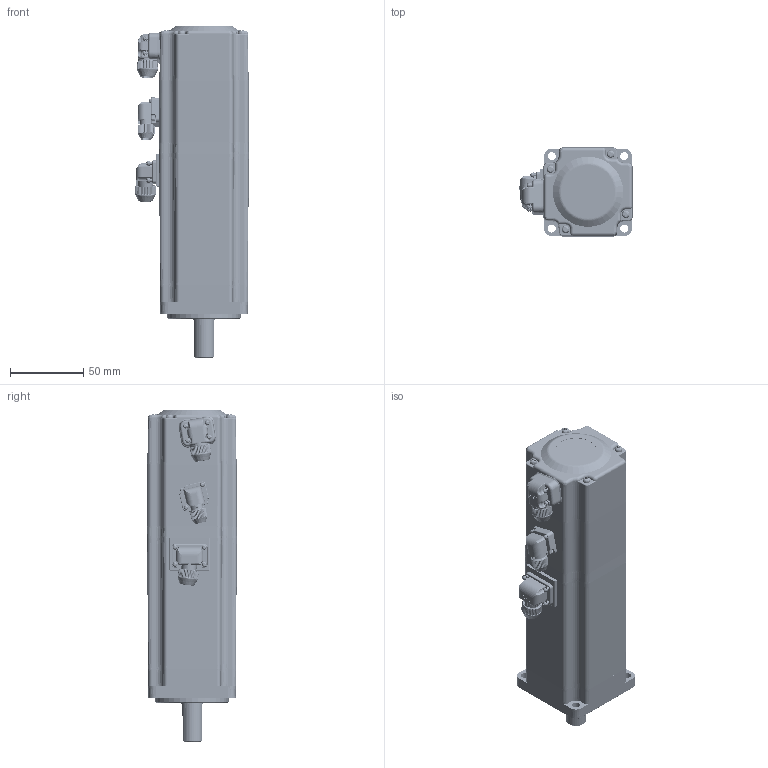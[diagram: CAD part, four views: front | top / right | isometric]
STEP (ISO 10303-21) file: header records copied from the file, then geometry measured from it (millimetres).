
FILE_DESCRIPTION((''),'2;1');
FILE_NAME('60-600W-1','2017-05-26T',('Administrator'),(''),'PRO/ENGINEER BY PARAMETRIC TECHNOLOGY CORPORATION, 2010280','PRO/ENGINEER BY PARAMETRIC TECHNOLOGY CORPORATION, 2010280','');
FILE_SCHEMA(('CONFIG_CONTROL_DESIGN'));
Products named in the file (1): 60-600W-1
Bounding box: 77.61 x 61.23 x 226.94 mm (x, y, z)
Volume: 427788.3 mm3; surface area: 112086.7 mm2
Topology: 15 solids, 73 shells, 9003 faces, 22855 edges, 13785 vertices
Faces by surface type: plane 5108, cylinder 1666, bspline 1165, cone 534, torus 188, sphere 183, extrusion 146, revolution 13
Entity records: 335759 total; most frequent: CARTESIAN_POINT 131195, ORIENTED_EDGE 44771, DIRECTION 37766, EDGE_CURVE 22664, VECTOR 14509, LINE 14363, VERTEX_POINT 13785, AXIS2_PLACEMENT_3D 11622
